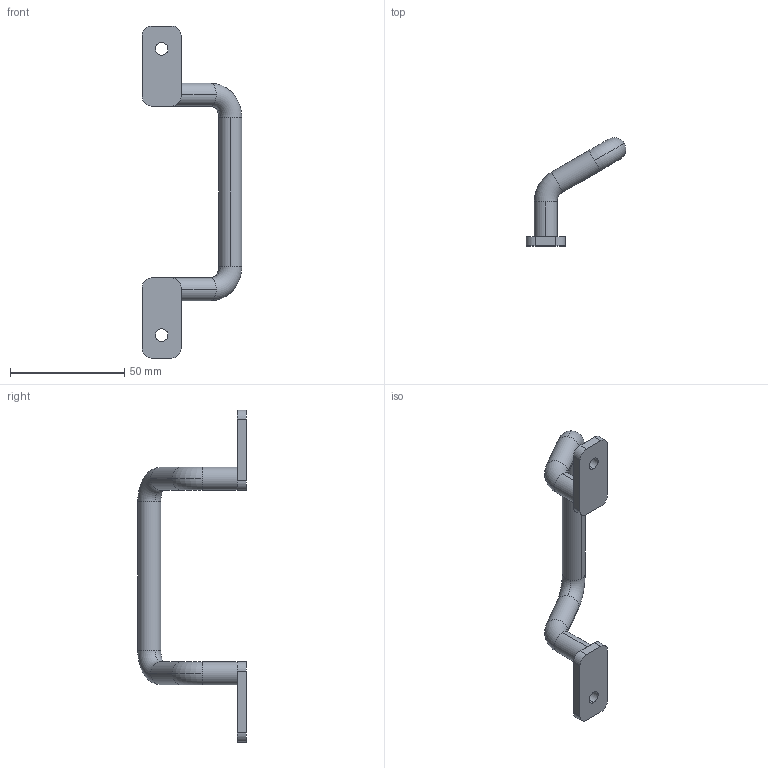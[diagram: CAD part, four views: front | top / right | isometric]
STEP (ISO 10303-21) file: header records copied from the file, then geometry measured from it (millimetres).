
FILE_DESCRIPTION (( 'STEP AP203' ), '1' );
FILE_NAME ('E20-20125.STEP', '2024-10-29T07:57:31', ( '' ), ( '' ), 'SwSTEP 2.0', 'SolidWorks 2021', '' );
FILE_SCHEMA (( 'CONFIG_CONTROL_DESIGN' ));
Length unit declared in the file: millimetre
Products named in the file (1): E20-20125
Bounding box: 43.5 x 47.32 x 145 mm (x, y, z)
Volume: 19033 mm3; surface area: 8817.4 mm2
Topology: 1 solids, 1 shells, 42 faces, 112 edges, 72 vertices
Faces by surface type: cylinder 22, plane 12, torus 8
Entity records: 1421 total; most frequent: DIRECTION 262, CARTESIAN_POINT 227, ORIENTED_EDGE 224, EDGE_CURVE 112, AXIS2_PLACEMENT_3D 107, VERTEX_POINT 72, CIRCLE 64, VECTOR 48
